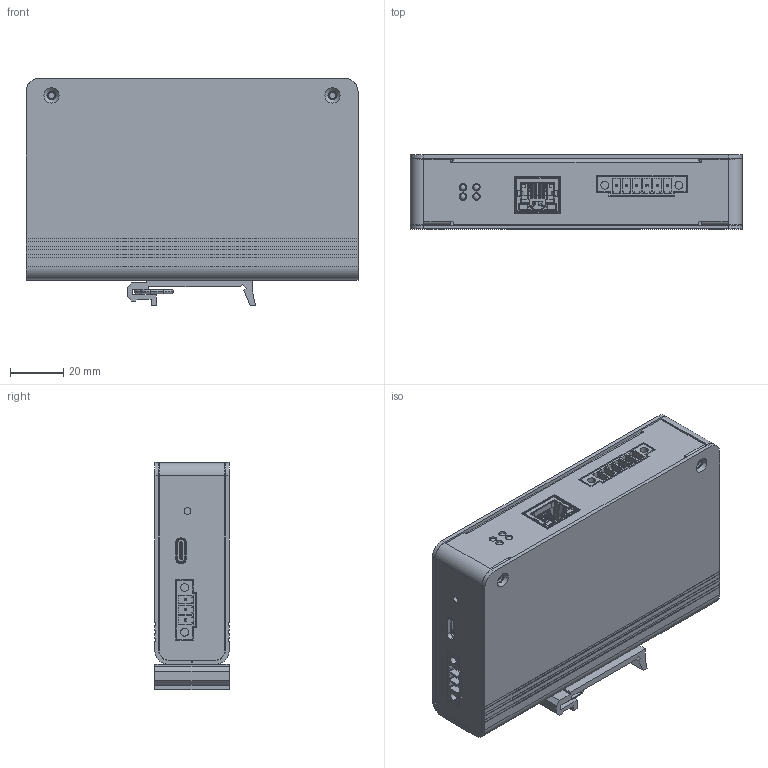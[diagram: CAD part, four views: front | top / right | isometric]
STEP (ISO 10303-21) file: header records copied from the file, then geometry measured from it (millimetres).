
FILE_DESCRIPTION((''),'2;1');
FILE_NAME('00-PXB______SW0001','2024-03-12T11:29:16',('liushaohao'),(''),'CREO PARAMETRIC BY PTC INC, 2021404','CREO PARAMETRIC BY PTC INC, 2021404','');
FILE_SCHEMA(('AUTOMOTIVE_DESIGN { 1 0 10303 214 1 1 1 1 }'));
Products named in the file (1): 00-PXB______SW0001
Bounding box: 125 x 28 x 85.5 mm (x, y, z)
Volume: 88828.4 mm3; surface area: 114205.5 mm2
Topology: 4 solids, 4 shells, 4787 faces, 13391 edges, 8618 vertices
Faces by surface type: plane 3548, cylinder 955, bspline 172, cone 66, torus 26, sphere 20
Entity records: 233296 total; most frequent: CARTESIAN_POINT 83830, ORIENTED_EDGE 26734, DIRECTION 23453, EDGE_CURVE 13367, VECTOR 10883, LINE 10883, VERTEX_POINT 8618, AXIS2_PLACEMENT_3D 6285
